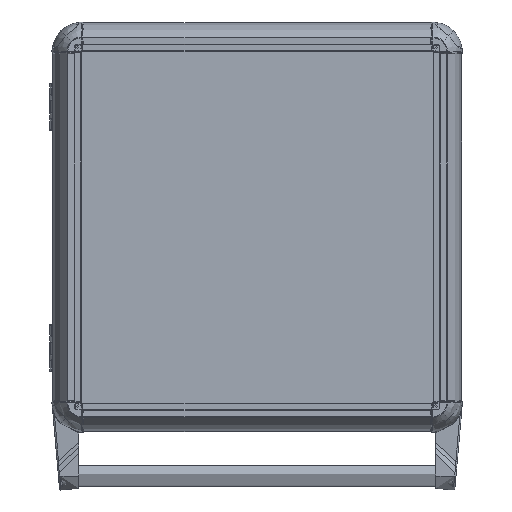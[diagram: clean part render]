
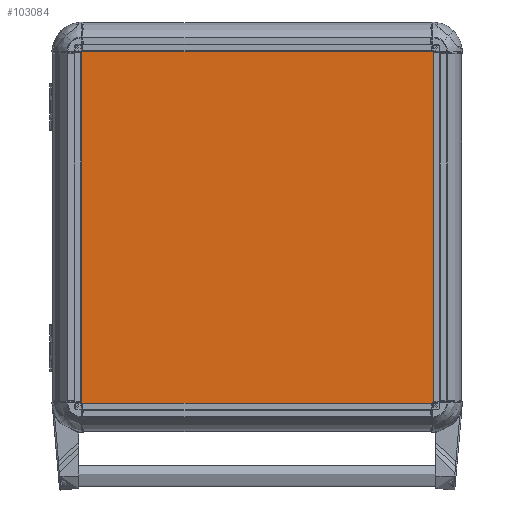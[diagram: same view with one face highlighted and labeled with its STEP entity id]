
A CAD part, top view. The second image highlights one B-rep face of the part: STEP entity #103084.
In plain terms, the highlighted planar face has unit normal (0, 0, 1).
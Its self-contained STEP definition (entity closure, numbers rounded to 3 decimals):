
#8942 = CARTESIAN_POINT ( 'NONE',  ( -150., -145., 2. ) ) ;
#14038 = ORIENTED_EDGE ( 'NONE', *, *, #121516, .T. ) ;
#16982 = AXIS2_PLACEMENT_3D ( 'NONE', #109814, #213814, #129225 ) ;
#24460 = CIRCLE ( 'NONE', #93582, 5. ) ;
#30153 = VERTEX_POINT ( 'NONE', #8942 ) ;
#32093 = CARTESIAN_POINT ( 'NONE',  ( -145., 150., 2. ) ) ;
#33078 = EDGE_CURVE ( 'NONE', #30153, #33944, #24460, .T. ) ;
#33944 = VERTEX_POINT ( 'NONE', #139530 ) ;
#44483 = ORIENTED_EDGE ( 'NONE', *, *, #50701, .T. ) ;
#46864 = DIRECTION ( 'NONE',  ( 1., 0., 0. ) ) ;
#49868 = VERTEX_POINT ( 'NONE', #171272 ) ;
#50701 = EDGE_CURVE ( 'NONE', #33944, #181968, #155229, .T. ) ;
#53072 = CIRCLE ( 'NONE', #220739, 5. ) ;
#55217 = CARTESIAN_POINT ( 'NONE',  ( 145., -150., 2. ) ) ;
#61055 = DIRECTION ( 'NONE',  ( 0., 0., 1. ) ) ;
#67912 = ORIENTED_EDGE ( 'NONE', *, *, #197671, .T. ) ;
#69299 = CARTESIAN_POINT ( 'NONE',  ( -145., -145., 2. ) ) ;
#73825 = DIRECTION ( 'NONE',  ( 1., 0., 0. ) ) ;
#81525 = FACE_OUTER_BOUND ( 'NONE', #104536, .T. ) ;
#84525 = DIRECTION ( 'NONE',  ( -1., 0., 0. ) ) ;
#85695 = CARTESIAN_POINT ( 'NONE',  ( -145., 150., 2. ) ) ;
#89762 = CIRCLE ( 'NONE', #16982, 5. ) ;
#89919 = LINE ( 'NONE', #212147, #202911 ) ;
#93582 = AXIS2_PLACEMENT_3D ( 'NONE', #69299, #159472, #73825 ) ;
#94997 = VECTOR ( 'NONE', #46864, 1000. ) ;
#98119 = ORIENTED_EDGE ( 'NONE', *, *, #204049, .T. ) ;
#103084 = ADVANCED_FACE ( 'NONE', ( #81525 ), #150086, .T. ) ;
#103761 = CIRCLE ( 'NONE', #169629, 5. ) ;
#104536 = EDGE_LOOP ( 'NONE', ( #172500, #44483, #14038, #204944, #98119, #67912, #151874, #162393 ) ) ;
#105998 = CARTESIAN_POINT ( 'NONE',  ( 150., 145., 2. ) ) ;
#107701 = VECTOR ( 'NONE', #84525, 1000. ) ;
#109814 = CARTESIAN_POINT ( 'NONE',  ( 145., -145., 2. ) ) ;
#114034 = CARTESIAN_POINT ( 'NONE',  ( 145., 145., 2. ) ) ;
#115127 = AXIS2_PLACEMENT_3D ( 'NONE', #147807, #61055, #199196 ) ;
#115143 = DIRECTION ( 'NONE',  ( 1., 0., 0. ) ) ;
#115824 = VECTOR ( 'NONE', #177998, 1000. ) ;
#118570 = LINE ( 'NONE', #105998, #115824 ) ;
#121516 = EDGE_CURVE ( 'NONE', #181968, #49868, #89762, .T. ) ;
#122474 = VERTEX_POINT ( 'NONE', #85695 ) ;
#129225 = DIRECTION ( 'NONE',  ( 1., 0., 0. ) ) ;
#131258 = CARTESIAN_POINT ( 'NONE',  ( 145., 150., 2. ) ) ;
#139530 = CARTESIAN_POINT ( 'NONE',  ( -145., -150., 2. ) ) ;
#141115 = CARTESIAN_POINT ( 'NONE',  ( -150., 145., 2. ) ) ;
#142162 = CARTESIAN_POINT ( 'NONE',  ( -145., 145., 2. ) ) ;
#147807 = CARTESIAN_POINT ( 'NONE',  ( -145., -145., 2. ) ) ;
#150086 = PLANE ( 'NONE',  #115127 ) ;
#150745 = VERTEX_POINT ( 'NONE', #131258 ) ;
#151874 = ORIENTED_EDGE ( 'NONE', *, *, #189550, .T. ) ;
#155229 = LINE ( 'NONE', #203305, #94997 ) ;
#159472 = DIRECTION ( 'NONE',  ( 0., 0., 1. ) ) ;
#160763 = DIRECTION ( 'NONE',  ( 0., -1., 0. ) ) ;
#162393 = ORIENTED_EDGE ( 'NONE', *, *, #211891, .T. ) ;
#163426 = CARTESIAN_POINT ( 'NONE',  ( 150., 145., 2. ) ) ;
#169629 = AXIS2_PLACEMENT_3D ( 'NONE', #142162, #193538, #192413 ) ;
#171272 = CARTESIAN_POINT ( 'NONE',  ( 150., -145., 2. ) ) ;
#172500 = ORIENTED_EDGE ( 'NONE', *, *, #33078, .T. ) ;
#174960 = EDGE_CURVE ( 'NONE', #49868, #208287, #118570, .T. ) ;
#177998 = DIRECTION ( 'NONE',  ( 0., 1., 0. ) ) ;
#181968 = VERTEX_POINT ( 'NONE', #55217 ) ;
#188479 = LINE ( 'NONE', #32093, #107701 ) ;
#189550 = EDGE_CURVE ( 'NONE', #122474, #199299, #103761, .T. ) ;
#192413 = DIRECTION ( 'NONE',  ( -1., 0., 0. ) ) ;
#193538 = DIRECTION ( 'NONE',  ( 0., 0., 1. ) ) ;
#197671 = EDGE_CURVE ( 'NONE', #150745, #122474, #188479, .T. ) ;
#199196 = DIRECTION ( 'NONE',  ( 1., 0., 0. ) ) ;
#199299 = VERTEX_POINT ( 'NONE', #141115 ) ;
#202010 = DIRECTION ( 'NONE',  ( 0., 0., 1. ) ) ;
#202911 = VECTOR ( 'NONE', #160763, 1000. ) ;
#203305 = CARTESIAN_POINT ( 'NONE',  ( -145., -150., 2. ) ) ;
#204049 = EDGE_CURVE ( 'NONE', #208287, #150745, #53072, .T. ) ;
#204944 = ORIENTED_EDGE ( 'NONE', *, *, #174960, .T. ) ;
#208287 = VERTEX_POINT ( 'NONE', #163426 ) ;
#211891 = EDGE_CURVE ( 'NONE', #199299, #30153, #89919, .T. ) ;
#212147 = CARTESIAN_POINT ( 'NONE',  ( -150., 145., 2. ) ) ;
#213814 = DIRECTION ( 'NONE',  ( 0., 0., 1. ) ) ;
#220739 = AXIS2_PLACEMENT_3D ( 'NONE', #114034, #202010, #115143 ) ;
